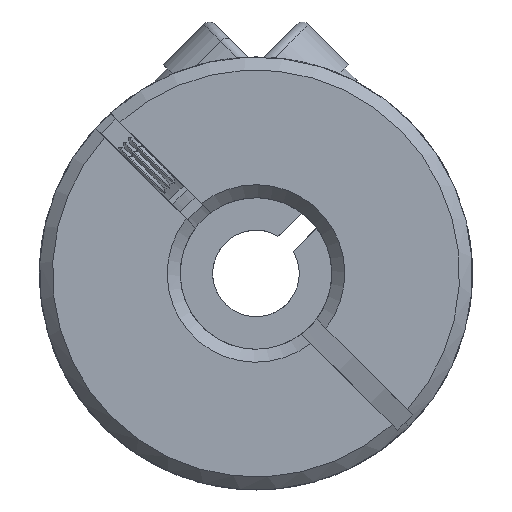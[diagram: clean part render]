
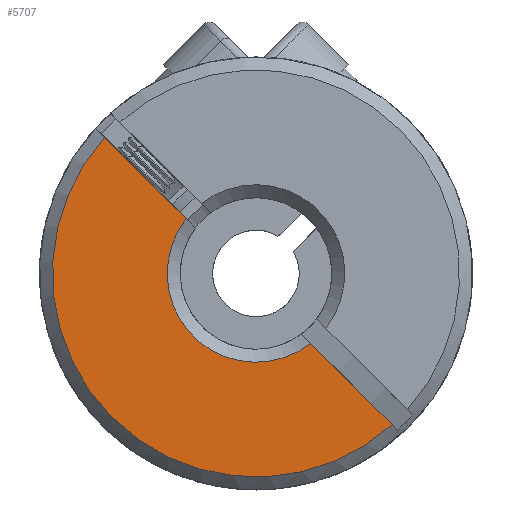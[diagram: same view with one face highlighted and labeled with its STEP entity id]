
A CAD part, front view. The second image highlights one B-rep face of the part: STEP entity #5707.
In plain terms, the highlighted planar face has unit normal (0, -1, 0).
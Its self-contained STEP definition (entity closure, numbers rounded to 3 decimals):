
#231 = CARTESIAN_POINT ( 'NONE',  ( 0.205, -11.2, -0.912 ) ) ;
#333 = ORIENTED_EDGE ( 'NONE', *, *, #2608, .T. ) ;
#636 = DIRECTION ( 'NONE',  ( -0.707, 0., 0.707 ) ) ;
#951 = DIRECTION ( 'NONE',  ( -0.707, 0., 0.707 ) ) ;
#1362 = VECTOR ( 'NONE', #636, 1000. ) ;
#1528 = DIRECTION ( 'NONE',  ( -0.707, 0., 0.707 ) ) ;
#1787 = DIRECTION ( 'NONE',  ( 0., -1., 0. ) ) ;
#2608 = EDGE_CURVE ( 'NONE', #8875, #13220, #5499, .T. ) ;
#2993 = CARTESIAN_POINT ( 'NONE',  ( -6.991, -11.2, 6.284 ) ) ;
#3748 = DIRECTION ( 'NONE',  ( -0.707, 0., 0.707 ) ) ;
#3902 = AXIS2_PLACEMENT_3D ( 'NONE', #14644, #5513, #951 ) ;
#5062 = VERTEX_POINT ( 'NONE', #2993 ) ;
#5358 = EDGE_CURVE ( 'NONE', #14363, #5062, #11596, .T. ) ;
#5428 = CIRCLE ( 'NONE', #13300, 9.4 ) ;
#5499 = LINE ( 'NONE', #7527, #1362 ) ;
#5513 = DIRECTION ( 'NONE',  ( 0., -1., 0. ) ) ;
#5610 = EDGE_CURVE ( 'NONE', #5062, #8875, #5428, .T. ) ;
#5707 = ADVANCED_FACE ( 'NONE', ( #6703 ), #7778, .T. ) ;
#6385 = DIRECTION ( 'NONE',  ( -0.707, 0., 0.707 ) ) ;
#6703 = FACE_OUTER_BOUND ( 'NONE', #10672, .T. ) ;
#7255 = CARTESIAN_POINT ( 'NONE',  ( 0., -11.2, 0. ) ) ;
#7527 = CARTESIAN_POINT ( 'NONE',  ( -8.839, -11.2, 8.132 ) ) ;
#7778 = PLANE ( 'NONE',  #3902 ) ;
#8163 = ORIENTED_EDGE ( 'NONE', *, *, #12760, .T. ) ;
#8437 = DIRECTION ( 'NONE',  ( 0., 1., 0. ) ) ;
#8875 = VERTEX_POINT ( 'NONE', #10890 ) ;
#9135 = AXIS2_PLACEMENT_3D ( 'NONE', #7255, #8437, #1528 ) ;
#9834 = CARTESIAN_POINT ( 'NONE',  ( 2.524, -11.2, -3.231 ) ) ;
#10672 = EDGE_LOOP ( 'NONE', ( #11961, #12461, #333, #8163 ) ) ;
#10890 = CARTESIAN_POINT ( 'NONE',  ( 6.284, -11.2, -6.991 ) ) ;
#11090 = CARTESIAN_POINT ( 'NONE',  ( 0., -11.2, 0. ) ) ;
#11596 = LINE ( 'NONE', #231, #13046 ) ;
#11961 = ORIENTED_EDGE ( 'NONE', *, *, #5358, .T. ) ;
#12461 = ORIENTED_EDGE ( 'NONE', *, *, #5610, .T. ) ;
#12760 = EDGE_CURVE ( 'NONE', #13220, #14363, #12808, .T. ) ;
#12808 = CIRCLE ( 'NONE', #9135, 4.1 ) ;
#13046 = VECTOR ( 'NONE', #3748, 1000. ) ;
#13220 = VERTEX_POINT ( 'NONE', #9834 ) ;
#13255 = CARTESIAN_POINT ( 'NONE',  ( -3.231, -11.2, 2.524 ) ) ;
#13300 = AXIS2_PLACEMENT_3D ( 'NONE', #11090, #1787, #6385 ) ;
#14363 = VERTEX_POINT ( 'NONE', #13255 ) ;
#14644 = CARTESIAN_POINT ( 'NONE',  ( 45.083, -11.2, 25.627 ) ) ;
